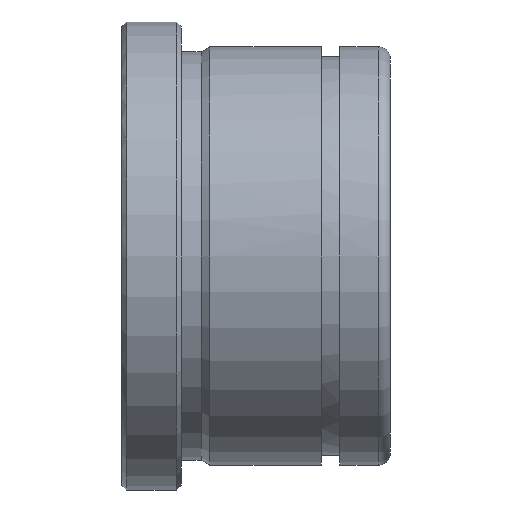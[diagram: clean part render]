
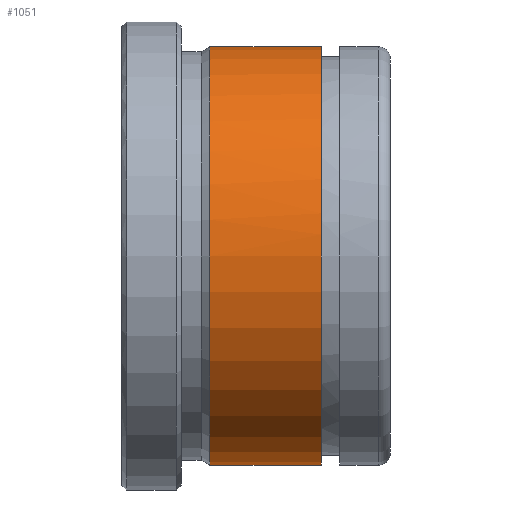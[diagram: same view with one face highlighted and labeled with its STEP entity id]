
A CAD part, front view. The second image highlights one B-rep face of the part: STEP entity #1051.
In plain terms, the highlighted cylindrical face has radius 21 mm (diameter 42 mm), a partial arc.
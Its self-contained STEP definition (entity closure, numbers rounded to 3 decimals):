
#851=CARTESIAN_POINT('Vertex',(8.866,0.,-21.)) ;
#858=CARTESIAN_POINT('Vertex',(8.866,0.,21.)) ;
#887=CARTESIAN_POINT('Axis2P3D Location',(8.866,0.,0.)) ;
#891=CARTESIAN_POINT('Vertex',(8.866,-21.,0.)) ;
#894=CARTESIAN_POINT('Axis2P3D Location',(8.866,0.,0.)) ;
#985=CARTESIAN_POINT('Line Origine',(54.,0.,21.)) ;
#989=CARTESIAN_POINT('Vertex',(20.05,0.,21.)) ;
#1006=CARTESIAN_POINT('Vertex',(20.05,0.,-21.)) ;
#1009=CARTESIAN_POINT('Line Origine',(54.,0.,-21.)) ;
#1023=CARTESIAN_POINT('Axis2P3D Location',(54.,0.,0.)) ;
#1028=CARTESIAN_POINT('Axis2P3D Location',(20.05,0.,0.)) ;
#1032=CARTESIAN_POINT('Vertex',(20.05,-21.,0.)) ;
#1036=CARTESIAN_POINT('Control Point',(20.05,0.,21.)) ;
#1037=CARTESIAN_POINT('Control Point',(20.05,-6.597,21.)) ;
#1038=CARTESIAN_POINT('Control Point',(20.05,-13.201,18.417)) ;
#1039=CARTESIAN_POINT('Control Point',(20.05,-18.417,13.201)) ;
#1040=CARTESIAN_POINT('Control Point',(20.05,-21.,6.597)) ;
#1041=CARTESIAN_POINT('Control Point',(20.05,-21.,0.)) ;
#888=DIRECTION('Axis2P3D Direction',(1.,0.,-0.)) ;
#895=DIRECTION('Axis2P3D Direction',(1.,0.,-0.)) ;
#986=DIRECTION('Vector Direction',(-1.,0.,0.)) ;
#1010=DIRECTION('Vector Direction',(-1.,0.,0.)) ;
#1024=DIRECTION('Axis2P3D Direction',(-1.,-0.,-0.)) ;
#1025=DIRECTION('Axis2P3D XDirection',(0.,0.,-1.)) ;
#1029=DIRECTION('Axis2P3D Direction',(-1.,-0.,-0.)) ;
#889=AXIS2_PLACEMENT_3D('Circle Axis2P3D',#887,#888,$) ;
#896=AXIS2_PLACEMENT_3D('Circle Axis2P3D',#894,#895,$) ;
#1026=AXIS2_PLACEMENT_3D('Cylinder Axis2P3D',#1023,#1024,#1025) ;
#1030=AXIS2_PLACEMENT_3D('Circle Axis2P3D',#1028,#1029,$) ;
#1044=ORIENTED_EDGE('',*,*,#1013,.T.) ;
#1045=ORIENTED_EDGE('',*,*,#1034,.F.) ;
#1046=ORIENTED_EDGE('',*,*,#1042,.F.) ;
#1047=ORIENTED_EDGE('',*,*,#991,.T.) ;
#1048=ORIENTED_EDGE('',*,*,#898,.T.) ;
#1049=ORIENTED_EDGE('',*,*,#893,.T.) ;
#987=VECTOR('Line Direction',#986,1.) ;
#1011=VECTOR('Line Direction',#1010,1.) ;
#1051=ADVANCED_FACE('553-30X27',(#1050),#1027,.T.) ;
#1035=B_SPLINE_CURVE_WITH_KNOTS('',5,(#1036,#1037,#1038,#1039,#1040,#1041),.UNSPECIFIED.,.F.,.U.,(6,6),(-16.493,16.493),.UNSPECIFIED.) ;
#890=CIRCLE('generated circle',#889,21.) ;
#897=CIRCLE('generated circle',#896,21.) ;
#1031=CIRCLE('generated circle',#1030,21.) ;
#1027=CYLINDRICAL_SURFACE('generated cylinder',#1026,21.) ;
#893=EDGE_CURVE('',#892,#852,#890,.T.) ;
#898=EDGE_CURVE('',#859,#892,#897,.T.) ;
#991=EDGE_CURVE('',#990,#859,#988,.T.) ;
#1013=EDGE_CURVE('',#852,#1007,#1012,.F.) ;
#1034=EDGE_CURVE('',#1033,#1007,#1031,.F.) ;
#1042=EDGE_CURVE('',#990,#1033,#1035,.T.) ;
#1043=EDGE_LOOP('',(#1044,#1045,#1046,#1047,#1048,#1049)) ;
#1050=FACE_OUTER_BOUND('',#1043,.T.) ;
#988=LINE('Line',#985,#987) ;
#1012=LINE('Line',#1009,#1011) ;
#852=VERTEX_POINT('',#851) ;
#859=VERTEX_POINT('',#858) ;
#892=VERTEX_POINT('',#891) ;
#990=VERTEX_POINT('',#989) ;
#1007=VERTEX_POINT('',#1006) ;
#1033=VERTEX_POINT('',#1032) ;
